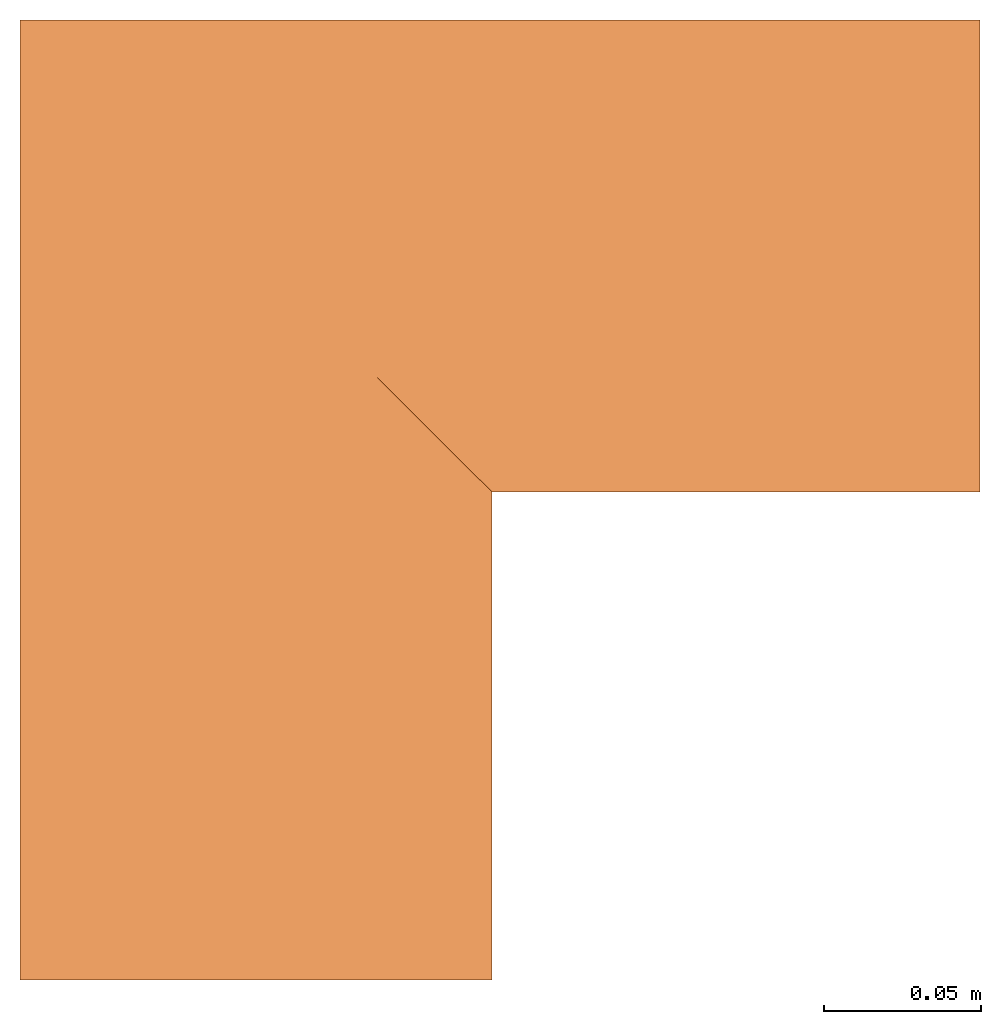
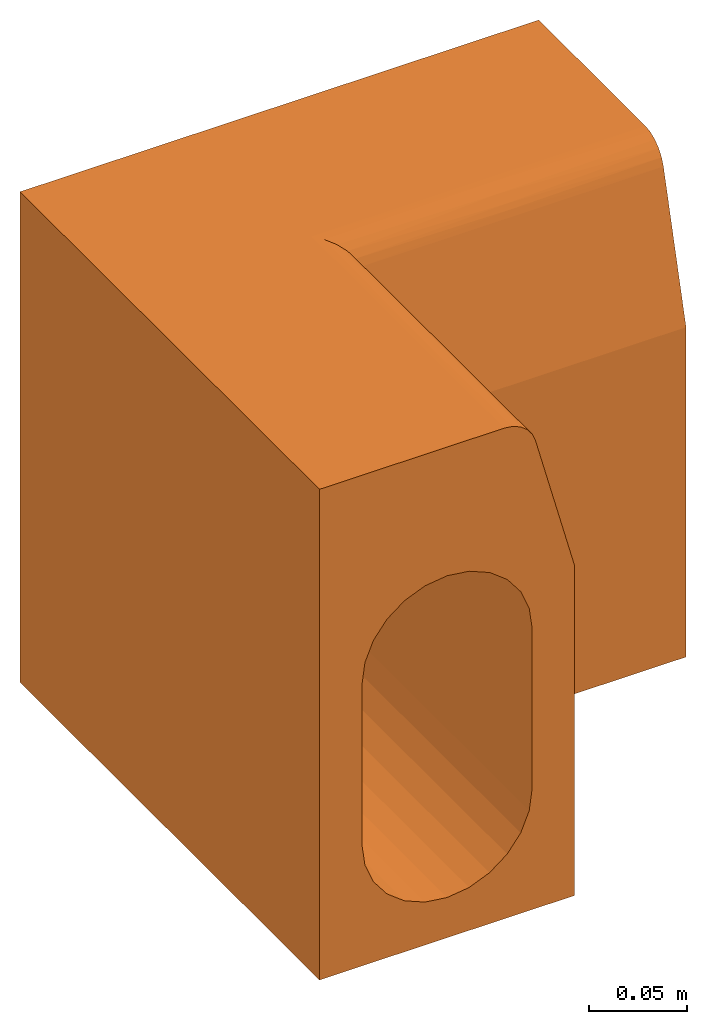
# One storey: 1 proxy.
"""IFC2X3 building model written with IfcOpenShell, lengths in millimetres."""

from ifc_helpers import new_model, entity, si_unit, converted_unit, direction, frame, origin, place, context, subcontext, project, spatial, faceted_brep, source, transform, mapped, material, element, save


model = new_model("IFC2X3")

# Units and contexts
model_context = context("Model", 3, precision=1e-06, world=origin(), true_north=direction((2.0, 6.12303176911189e-17, 1.0)))
context_of_model = context(None, 3, precision=1e-06, world=origin(), true_north=direction((2.0, 6.12303176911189e-17, 1.0)))
body_context = subcontext(model_context, "Body", "Model", "MODEL_VIEW")
ifc_project = project(units=[si_unit("LENGTHUNIT", "METRE", prefix="MILLI"), si_unit("AREAUNIT", "SQUARE_METRE", prefix="MILLI"), si_unit("VOLUMEUNIT", "CUBIC_METRE", prefix="MILLI"), converted_unit("PLANEANGLEUNIT", "DEGREE", entity("IfcRatioMeasure", 0.0174532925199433), si_unit("PLANEANGLEUNIT", "RADIAN"), dimensions=[0, 0, 0, 0, 0, 0, 0]), si_unit("TIMEUNIT", "SECOND")], contexts=[model_context, context_of_model])

# Site, building, storey
site_placement = place(None, origin())
site = spatial("IfcSite", under=ifc_project, at=site_placement, Name="Default", CompositionType="ELEMENT")
building_placement = place(site_placement, origin())
building = spatial("IfcBuilding", under=site, at=building_placement, CompositionType="ELEMENT")
storey_placement = place(building_placement, frame((0.0, 0.0, -300.0)))
storey = spatial("IfcBuildingStorey", under=building, at=storey_placement, Name="T.O. Fnd. Wall", CompositionType="ELEMENT", Elevation=-300.0)

# Proxy
ifc_material = material(Name="ACO Polymer Concrete.")
shared_shape = source(origin(), body_context, "Body", "Brep", [
    faceted_brep([(-25.0, 0.0, -148.301270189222), (-35.3553390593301, 0.0, -140.355339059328), (-75.0, 0.0, -180.0), (-43.3012701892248, 0.0, -130.0), (-12.9409522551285, 0.0, -153.296291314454), (0.0, 0.0, -155.0), (75.0, 0.0, -180.0), (-50.0, 0.0, -105.0), (-50.0, 0.0, -5.0), (-48.2962913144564, 0.0, -117.940952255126), (-48.2962913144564, 0.0, 7.94095225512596), (-75.0, 0.0, 125.0), (12.9409522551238, 0.0, -153.296291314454), (35.3553390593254, 0.0, -140.355339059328), (25.0, 0.0, -148.301270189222), (43.3012701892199, 0.0, -130.0), (75.0, 0.0, 25.0), (50.0, 0.0, -105.0), (48.2962913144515, 0.0, -117.940952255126), (50.0, 0.0, -5.0), (-43.3012701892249, 0.0, 20.0), (-35.3553390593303, 0.0, 30.3553390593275), (-25.0, 0.0, 38.3012701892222), (-12.9409522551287, 0.0, 43.2962913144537), (33.6258679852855, 0.0, 125.0), (0.0, 0.0, 45.0), (12.9409522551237, 0.0, 43.2962913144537), (51.9784586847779, 0.0, 110.917561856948), (25.0, 0.0, 38.3012701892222), (35.3553390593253, 0.0, 30.3553390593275), (43.3012701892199, 0.0, 20.0), (48.2962913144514, 0.0, 7.94095225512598), (47.0608968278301, 0.0, 119.435028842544), (43.1258679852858, 0.0, 122.454482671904), (38.5434298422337, 0.0, 124.352590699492), (50.08035065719, 0.0, 115.5), (75.0, 155.0, -180.0), (-75.0, 305.0, -180.0), (230.0, 305.0, -180.0), (230.0, 155.0, -180.0), (75.0, 155.0, 25.0), (51.9784586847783, 178.021541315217, 110.917561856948), (51.9784586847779, 76.099934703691, 110.917561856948), (37.2035592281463, 92.8820832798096, 124.660121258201), (33.6258679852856, 196.37413201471, 125.0), (33.6258679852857, 120.274197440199, 125.0), (38.5434298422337, 191.456570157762, 124.352590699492), (47.0608968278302, 182.939103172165, 119.435028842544), (45.1923351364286, 91.4695515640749, 121.073713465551), (47.8283728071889, 91.4695515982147, 118.620968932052), (50.0803506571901, 179.919649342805, 115.5), (49.8487702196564, 89.9598246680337, 115.8902701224), (40.7850071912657, 95.7282850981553, 123.599622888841), (43.1258679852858, 186.87413201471, 122.454482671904), (-75.0, 305.0, 125.0), (230.0, 305.0, 125.0), (109.725802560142, 196.37413201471, 125.0), (230.0, 265.355339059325, -140.355339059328), (230.0, 255.0, -148.301270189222), (230.0, 273.30127018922, -130.0), (230.0, 242.940952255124, -153.296291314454), (230.0, 230.0, -155.0), (230.0, 280.0, -5.0), (230.0, 280.0, -105.0), (230.0, 278.296291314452, -117.940952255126), (230.0, 278.296291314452, 7.94095225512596), (230.0, 217.059047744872, -153.296291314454), (230.0, 205.0, -148.301270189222), (230.0, 194.64466094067, -140.355339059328), (230.0, 186.698729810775, -130.0), (230.0, 180.0, -105.0), (230.0, 155.0, 25.0), (230.0, 181.703708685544, -117.940952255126), (230.0, 180.0, -5.0), (230.0, 265.355339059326, 30.3553390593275), (230.0, 273.30127018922, 20.0), (230.0, 255.0, 38.3012701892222), (230.0, 196.37413201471, 125.0), (230.0, 242.940952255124, 43.2962913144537), (230.0, 217.059047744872, 43.2962913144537), (230.0, 230.0, 45.0), (230.0, 178.021541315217, 110.917561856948), (230.0, 205.0, 38.3012701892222), (230.0, 186.698729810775, 20.0), (230.0, 194.64466094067, 30.3553390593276), (230.0, 181.703708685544, 7.940952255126), (230.0, 186.87413201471, 122.454482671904), (230.0, 182.939103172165, 119.435028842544), (230.0, 179.919649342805, 115.5), (230.0, 191.456570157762, 124.352590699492), (140.989229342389, 178.021541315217, 110.917561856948), (140.040175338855, 179.423821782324, 114.584112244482), (140.040175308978, 181.300418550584, 117.566467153), (135.012462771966, 192.726240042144, 124.646524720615), (136.562933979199, 189.1031468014, 123.553711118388), (136.562934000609, 185.836478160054, 121.81005538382), (-50.0, 280.0, -5.0), (-50.0, 280.0, -105.0), (-35.3553390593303, 265.355339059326, 30.3553390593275), (-43.3012701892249, 273.30127018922, 20.0), (-12.9409522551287, 242.940952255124, 43.2962913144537), (-25.0, 255.0, 38.3012701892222), (0.0, 230.0, 45.0), (-48.2962913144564, 278.296291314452, 7.94095225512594), (25.0, 205.0, 38.3012701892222), (12.9409522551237, 217.059047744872, 43.2962913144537), (35.3553390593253, 194.64466094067, 30.3553390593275), (48.2962913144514, 181.703708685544, 7.940952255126), (43.3012701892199, 186.698729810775, 20.0), (50.0, 180.0, -5.0), (50.0, 180.0, -105.0), (48.2962913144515, 181.703708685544, -117.940952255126), (43.3012701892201, 186.698729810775, -130.0), (35.3553390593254, 194.64466094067, -140.355339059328), (25.0, 205.0, -148.301270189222), (12.9409522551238, 217.059047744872, -153.296291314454), (0.0, 230.0, -155.0), (-12.9409522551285, 242.940952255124, -153.296291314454), (-25.0, 255.0, -148.301270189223), (-35.35533905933, 265.355339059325, -140.355339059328), (-43.3012701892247, 273.30127018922, -130.0), (-48.2962913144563, 278.296291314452, -117.940952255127)], [[[0, 1, 2]], [[3, 2, 1]], [[2, 4, 0]], [[5, 4, 2, 6]], [[2, 7, 8]], [[2, 3, 9]], [[8, 10, 11, 2]], [[2, 9, 7]], [[6, 12, 5]], [[13, 14, 6]], [[12, 6, 14]], [[6, 15, 13]], [[6, 16, 17, 18]], [[6, 18, 15]], [[19, 17, 16]], [[11, 20, 21]], [[22, 11, 21]], [[23, 24, 11, 22]], [[24, 25, 26, 27]], [[23, 25, 24]], [[27, 26, 28]], [[11, 10, 20]], [[29, 30, 16, 27]], [[19, 16, 31]], [[30, 31, 16]], [[24, 32, 33, 34]], [[24, 27, 35, 32]], [[28, 29, 27]], [[36, 6, 2, 37]], [[38, 39, 36, 37]], [[16, 6, 36, 40]], [[27, 16, 40]], [[40, 41, 42, 27]], [[43, 44, 45, 24]], [[46, 44, 43]], [[47, 48, 49]], [[42, 50, 51]], [[42, 41, 50]], [[35, 27, 42]], [[49, 48, 32]], [[48, 33, 32]], [[42, 51, 35]], [[33, 52, 34]], [[46, 43, 52]], [[34, 43, 24]], [[53, 46, 52]], [[33, 48, 52]], [[34, 52, 43]], [[50, 47, 49]], [[35, 49, 32]], [[51, 50, 49]], [[48, 53, 52]], [[49, 35, 51]], [[53, 48, 47]], [[11, 24, 45, 44]], [[11, 44, 54]], [[55, 54, 44, 56]], [[2, 11, 54, 37]], [[38, 57, 58]], [[57, 38, 59]], [[58, 60, 38]], [[38, 60, 61]], [[62, 63, 38, 55]], [[64, 59, 38]], [[65, 62, 55]], [[63, 64, 38]], [[61, 66, 39, 38]], [[39, 67, 68]], [[67, 39, 66]], [[68, 69, 39]], [[70, 71, 39, 72]], [[69, 72, 39]], [[71, 70, 73]], [[74, 75, 55]], [[74, 55, 76]], [[55, 77, 78, 76]], [[79, 80, 77]], [[77, 80, 78]], [[81, 82, 79, 77]], [[75, 65, 55]], [[71, 83, 84, 81]], [[85, 71, 73]], [[71, 85, 83]], [[77, 86, 87, 88]], [[88, 81, 77]], [[81, 84, 82]], [[77, 89, 86]], [[40, 36, 39, 71]], [[81, 90, 40, 71]], [[81, 88, 91]], [[91, 41, 90, 81]], [[50, 41, 91]], [[88, 87, 92]], [[93, 94, 89]], [[91, 88, 92]], [[91, 92, 50]], [[46, 93, 44]], [[86, 95, 87]], [[86, 89, 94]], [[95, 92, 87]], [[95, 47, 92]], [[46, 94, 93]], [[77, 93, 89]], [[95, 94, 53]], [[93, 77, 56, 44]], [[46, 53, 94]], [[53, 47, 95]], [[94, 95, 86]], [[47, 50, 92]], [[38, 37, 54, 55]], [[96, 8, 7, 97]], [[98, 21, 20, 99]], [[100, 23, 22, 101]], [[101, 22, 21, 98]], [[23, 100, 102, 25]], [[8, 96, 103, 10]], [[10, 103, 99, 20]], [[104, 28, 26, 105]], [[106, 29, 28, 104]], [[107, 31, 30, 108]], [[108, 30, 29, 106]], [[109, 19, 31, 107]], [[25, 102, 105, 26]], [[110, 17, 19, 109]], [[15, 18, 111, 112]], [[13, 15, 112, 113]], [[12, 14, 114, 115]], [[14, 13, 113, 114]], [[5, 12, 115, 116]], [[18, 17, 110, 111]], [[0, 4, 117, 118]], [[1, 0, 118, 119]], [[9, 3, 120, 121]], [[3, 1, 119, 120]], [[7, 9, 121, 97]], [[116, 117, 4, 5]], [[62, 96, 97, 63]], [[103, 96, 62, 65]], [[99, 103, 65, 75]], [[101, 98, 74, 76]], [[98, 99, 75, 74]], [[100, 101, 76, 78]], [[78, 80, 102, 100]], [[106, 104, 82, 84]], [[104, 105, 79, 82]], [[109, 107, 85, 73]], [[107, 108, 83, 85]], [[108, 106, 84, 83]], [[80, 79, 105, 102]], [[70, 110, 109, 73]], [[68, 113, 112, 69]], [[69, 112, 111, 72]], [[115, 66, 61, 116]], [[66, 115, 114, 67]], [[67, 114, 113, 68]], [[110, 70, 72, 111]], [[58, 118, 117, 60]], [[57, 119, 118, 58]], [[64, 121, 120, 59]], [[59, 120, 119, 57]], [[63, 97, 121, 64]], [[116, 61, 60, 117]], [[55, 56, 77]], [[40, 90, 41]]]),
])
proxy_placement = place(storey_placement, frame((-4010.98705540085, -6177.33245691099, 300.0)))
element("IfcBuildingElementProxy", 1, at=proxy_placement, inside=storey, material=ifc_material, Name="Civil-Drainage-Channel-ACO-KerbDrain-HB305 Part 2:4991 - Internal angle:4991 - Internal angle", ObjectType="4991 - Internal angle", CompositionType="ELEMENT", context=body_context, shape_type="MappedRepresentation", body=[
    mapped(shared_shape, transform((0.0, 0.0, 0.0), scale=1.0)),
])

save(model, "model.ifc")
